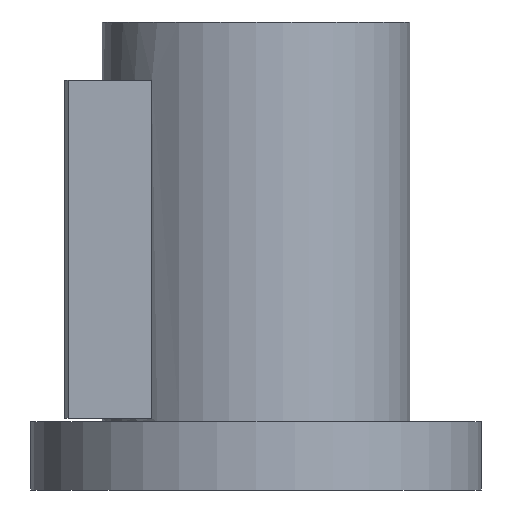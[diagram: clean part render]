
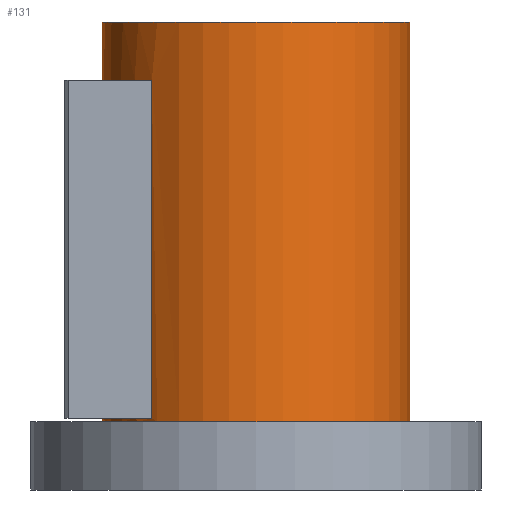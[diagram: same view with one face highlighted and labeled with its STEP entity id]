
A CAD part, front view. The second image highlights one B-rep face of the part: STEP entity #131.
In plain terms, the highlighted cylindrical face has radius 45 mm (diameter 90 mm), a full revolution.
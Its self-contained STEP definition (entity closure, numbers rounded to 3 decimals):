
#131=ADVANCED_FACE('',(#218,#219,#220),#161,.T.);
#161=CYLINDRICAL_SURFACE('',#550,45.);
#174=LINE('',#752,#196);
#175=LINE('',#756,#197);
#196=VECTOR('',#612,1.);
#197=VECTOR('',#615,1.);
#218=FACE_BOUND('',#263,.T.);
#219=FACE_BOUND('',#264,.T.);
#220=FACE_BOUND('',#265,.T.);
#263=EDGE_LOOP('',(#325));
#264=EDGE_LOOP('',(#326));
#265=EDGE_LOOP('',(#327,#328,#329,#330));
#325=ORIENTED_EDGE('',*,*,#467,.F.);
#326=ORIENTED_EDGE('',*,*,#468,.T.);
#327=ORIENTED_EDGE('',*,*,#469,.F.);
#328=ORIENTED_EDGE('',*,*,#470,.F.);
#329=ORIENTED_EDGE('',*,*,#471,.T.);
#330=ORIENTED_EDGE('',*,*,#472,.F.);
#425=VERTEX_POINT('',#746);
#426=VERTEX_POINT('',#748);
#427=VERTEX_POINT('',#750);
#428=VERTEX_POINT('',#751);
#429=VERTEX_POINT('',#753);
#430=VERTEX_POINT('',#755);
#467=EDGE_CURVE('',#425,#425,#517,.T.);
#468=EDGE_CURVE('',#426,#426,#518,.T.);
#469=EDGE_CURVE('',#427,#428,#519,.T.);
#470=EDGE_CURVE('',#429,#427,#174,.T.);
#471=EDGE_CURVE('',#429,#430,#520,.T.);
#472=EDGE_CURVE('',#428,#430,#175,.T.);
#517=CIRCLE('',#546,45.);
#518=CIRCLE('',#547,45.);
#519=CIRCLE('',#548,45.);
#520=CIRCLE('',#549,45.);
#546=AXIS2_PLACEMENT_3D('',#745,#606,#607);
#547=AXIS2_PLACEMENT_3D('',#747,#608,#609);
#548=AXIS2_PLACEMENT_3D('',#749,#610,#611);
#549=AXIS2_PLACEMENT_3D('',#754,#613,#614);
#550=AXIS2_PLACEMENT_3D('',#757,#616,#617);
#606=DIRECTION('',(0.,0.,1.));
#607=DIRECTION('',(1.,0.,0.));
#608=DIRECTION('',(0.,0.,1.));
#609=DIRECTION('',(1.,0.,0.));
#610=DIRECTION('',(0.,0.,-1.));
#611=DIRECTION('',(-1.,0.,0.));
#612=DIRECTION('',(0.,0.,1.));
#613=DIRECTION('',(0.,0.,-1.));
#614=DIRECTION('',(-1.,0.,0.));
#615=DIRECTION('',(0.,0.,-1.));
#616=DIRECTION('',(0.,0.,-1.));
#617=DIRECTION('',(-1.,0.,0.));
#745=CARTESIAN_POINT('',(0.,0.,137.));
#746=CARTESIAN_POINT('',(45.,0.,137.));
#747=CARTESIAN_POINT('',(0.,0.,20.));
#748=CARTESIAN_POINT('',(45.,0.,20.));
#749=CARTESIAN_POINT('',(0.,0.,120.));
#750=CARTESIAN_POINT('',(-30.5,-33.087,120.));
#751=CARTESIAN_POINT('',(-30.5,33.087,120.));
#752=CARTESIAN_POINT('',(-30.5,-33.087,137.));
#753=CARTESIAN_POINT('',(-30.5,-33.087,21.));
#754=CARTESIAN_POINT('',(0.,0.,21.));
#755=CARTESIAN_POINT('',(-30.5,33.087,21.));
#756=CARTESIAN_POINT('',(-30.5,33.087,137.));
#757=CARTESIAN_POINT('',(0.,0.,137.));
